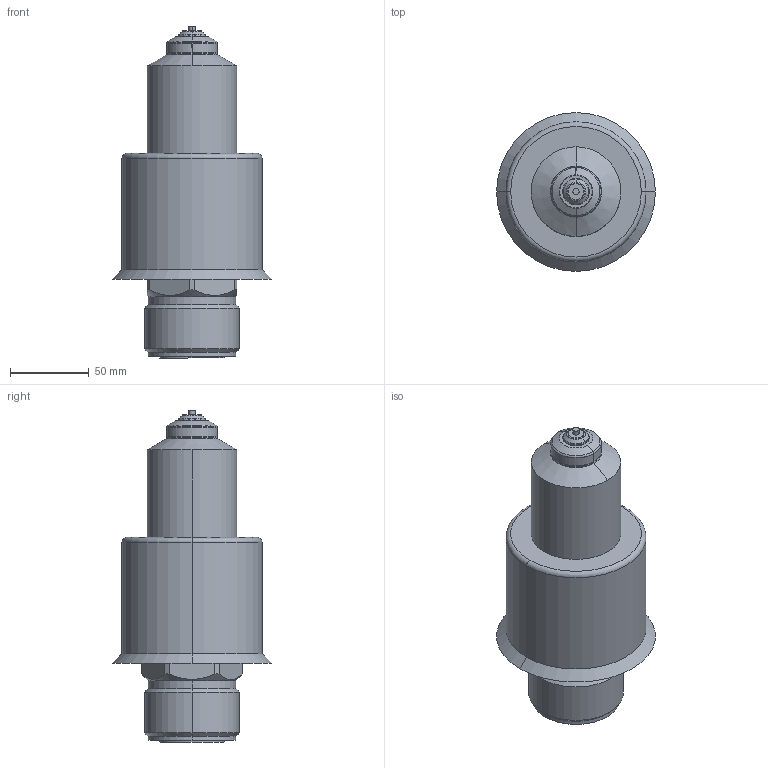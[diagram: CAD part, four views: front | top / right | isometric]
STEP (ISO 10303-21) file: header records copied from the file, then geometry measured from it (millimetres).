
FILE_DESCRIPTION (( 'STEP AP214' ), '1' );
FILE_NAME ('T24_OPEN_161_BAND.STEP', '2009-07-06T18:26:09', ( 'Synventive Molding Solutions' ), ( 'Synventive Molding Solutions' ), 'SwSTEP 2.0', 'SolidWorks 2008', '' );
FILE_SCHEMA (( 'AUTOMOTIVE_DESIGN' ));
Length unit declared in the file: millimetre
Products named in the file (1): T24_OPEN_161_BAND
Bounding box: 101 x 101 x 211 mm (x, y, z)
Volume: 1143132.9 mm3; surface area: 95342.4 mm2
Topology: 3 solids, 3 shells, 268 faces, 661 edges, 410 vertices
Faces by surface type: cylinder 99, plane 91, torus 41, cone 33, sphere 2, bspline 2
Entity records: 11703 total; most frequent: CARTESIAN_POINT 2260, DIRECTION 1428, ORIENTED_EDGE 1318, EDGE_CURVE 659, AXIS2_PLACEMENT_3D 568, VERTEX_POINT 410, CIRCLE 301, VECTOR 292
